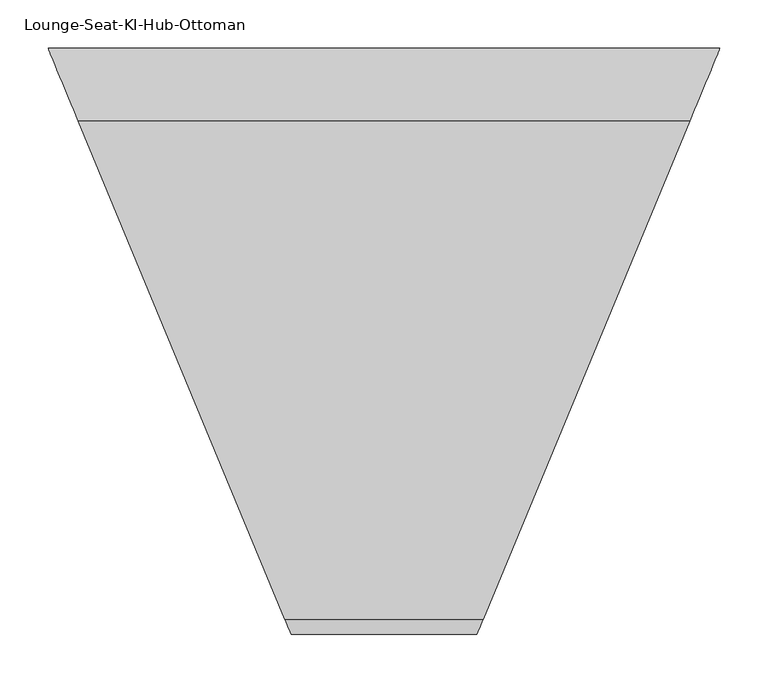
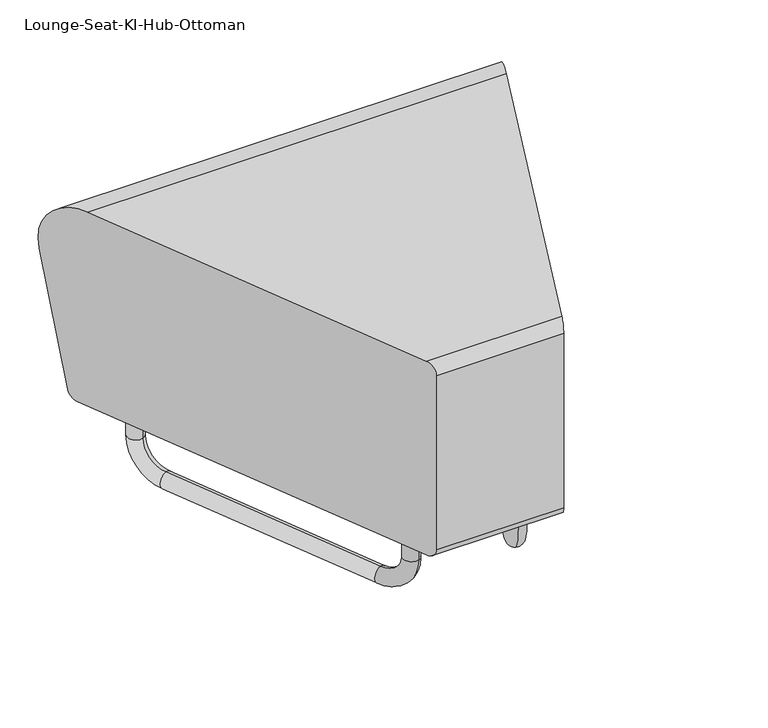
"""IFC4 building model written with IfcOpenShell, lengths in millimetres: furniture geometry."""

from ifc_helpers import new_model, si_unit, point, frame, origin, place, context, project, spatial, circle_curve, ellipse_curve, trimmed, source, transform, mapped, element, save
from ifc_brep_helpers import plane_surface, cylinder_surface, revolved_surface, advanced_brep


def lounge_seat_ki_hub_ottoman_19a636cd(model_context):
    return source(origin(), model_context, "Body", "AdvancedBrep", [
        advanced_brep(
        [(75.5608946, -222.9321312, 120.65), (85.2810538, -199.4655911, 120.65), (75.5608946, -222.9321312, 63.5), (85.2810538, -199.4655911, 63.5), (99.8612926, -164.2657809, 25.4), (99.8612926, -164.2657809, 0.0), (235.9435211, 164.2657809, 0.0), (235.9435211, 164.2657809, 25.4), (250.5237599, 199.4655911, 63.5), (260.2439191, 222.9321312, 63.5), (260.2439191, 222.9321312, 120.65), (250.5237599, 199.4655911, 120.65)],
        [
            (0, 1, circle_curve(frame((80.4209742, -211.1988611, 120.65), z_axis=(0.0, 0.0, 1.0), x_axis=(0.3826834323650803, 0.9238795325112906, 0.0)), 12.7)),
            (1, 0, circle_curve(frame((80.4209742, -211.1988611, 120.65), z_axis=(0.0, 0.0, 1.0), x_axis=(0.3826834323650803, 0.9238795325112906, 0.0)), 12.7)),
            (0, 2),
            (2, 3, circle_curve(frame((80.4209742, -211.1988611, 63.5), z_axis=(0.0, 0.0, 1.0), x_axis=(0.3826834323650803, 0.9238795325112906, 0.0)), 12.7)),
            (3, 1),
            (3, 2, circle_curve(frame((80.4209742, -211.1988611, 63.5), z_axis=(0.0, 0.0, 1.0), x_axis=(0.3826834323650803, 0.9238795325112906, 0.0)), 12.7)),
            (4, 3, circle_curve(frame((99.8612926, -164.2657809, 63.5), z_axis=(-0.9238795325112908, 0.3826834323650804, 0.0), x_axis=(-0.3826834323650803, -0.9238795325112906, 0.0)), 38.1)),
            (2, 5, circle_curve(frame((99.8612926, -164.2657809, 63.5), z_axis=(0.9238795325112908, -0.3826834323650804, 0.0), x_axis=(-0.3826834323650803, -0.9238795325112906, 0.0)), 63.5)),
            (5, 4, circle_curve(frame((99.8612926, -164.2657809, 12.7), z_axis=(-0.3826834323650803, -0.9238795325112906, 0.0), x_axis=(0.0, 0.0, 1.0)), 12.7)),
            (4, 5, circle_curve(frame((99.8612926, -164.2657809, 12.7), z_axis=(-0.3826834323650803, -0.9238795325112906, 0.0), x_axis=(0.0, 0.0, 1.0)), 12.7)),
            (5, 6),
            (6, 7, circle_curve(frame((235.9435211, 164.2657809, 12.7), z_axis=(-0.3826834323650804, -0.9238795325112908, 0.0), x_axis=(0.0, 0.0, 1.0)), 12.7)),
            (7, 4),
            (7, 6, circle_curve(frame((235.9435211, 164.2657809, 12.7), z_axis=(-0.3826834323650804, -0.9238795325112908, 0.0), x_axis=(0.0, 0.0, 1.0)), 12.7)),
            (8, 7, circle_curve(frame((235.9435211, 164.2657809, 63.5), z_axis=(-0.9238795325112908, 0.3826834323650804, 0.0), x_axis=(0.0, 0.0, -1.0)), 38.1)),
            (6, 9, circle_curve(frame((235.9435211, 164.2657809, 63.5), z_axis=(0.9238795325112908, -0.3826834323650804, 0.0), x_axis=(0.0, 0.0, -1.0)), 63.5)),
            (9, 8, circle_curve(frame((255.3838395, 211.1988611, 63.5), z_axis=(0.0, 0.0, -1.0), x_axis=(-0.3826834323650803, -0.9238795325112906, 0.0)), 12.7)),
            (8, 9, circle_curve(frame((255.3838395, 211.1988611, 63.5), z_axis=(0.0, 0.0, -1.0), x_axis=(-0.3826834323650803, -0.9238795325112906, 0.0)), 12.7)),
            (10, 11, circle_curve(frame((255.3838395, 211.1988611, 120.65), z_axis=(0.0, 0.0, 1.0), x_axis=(-0.3826834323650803, -0.9238795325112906, 0.0)), 12.7)),
            (11, 10, circle_curve(frame((255.3838395, 211.1988611, 120.65), z_axis=(0.0, 0.0, 1.0), x_axis=(-0.3826834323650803, -0.9238795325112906, 0.0)), 12.7)),
            (9, 10),
            (11, 8),
        ],
        [
            plane_surface(frame((80.4209742, -211.1988611, 120.65), z_axis=(0.0, 0.0, 1.0000000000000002), x_axis=(0.9238795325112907, -0.38268343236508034, 0.0))),
            cylinder_surface(frame((80.4209742, -211.1988611, 120.65), z_axis=(0.0, 0.0, 1.0), x_axis=(0.3826834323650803, 0.9238795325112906, 0.0)), 12.7),
            revolved_surface(trimmed(ellipse_curve(frame((80.4209742, -211.1988611, 63.5), z_axis=(0.0, 0.0, 1.0), x_axis=(0.3826834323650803, 0.9238795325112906, 0.0)), 12.7, 12.7), [point((75.5608946, -222.9321312, 63.5))], [point((85.2810538, -199.4655911, 63.5))], True, "CARTESIAN"), (99.8612926, -164.2657809, 63.5), (0.9238795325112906, -0.3826834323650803, 0.0)),
            revolved_surface(trimmed(ellipse_curve(frame((80.4209742, -211.1988611, 63.5), z_axis=(0.0, 0.0, 1.0), x_axis=(0.3826834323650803, 0.9238795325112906, 0.0)), 12.7, 12.7), [point((85.2810538, -199.4655911, 63.5))], [point((75.5608946, -222.9321312, 63.5))], True, "CARTESIAN"), (99.8612926, -164.2657809, 63.5), (0.9238795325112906, -0.3826834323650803, 0.0)),
            cylinder_surface(frame((99.8612926, -164.2657809, 12.7), z_axis=(-0.3826834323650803, -0.9238795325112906, 0.0), x_axis=(0.0, 0.0, 1.0)), 12.7),
            revolved_surface(trimmed(ellipse_curve(frame((235.9435211, 164.2657809, 12.7), z_axis=(-0.3826834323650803, -0.9238795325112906, 0.0), x_axis=(0.0, 0.0, 1.0)), 12.7, 12.7), [point((235.9435211, 164.2657809, 0.0))], [point((235.9435211, 164.2657809, 25.4))], True, "CARTESIAN"), (235.9435211, 164.2657809, 63.5), (0.9238795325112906, -0.3826834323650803, 0.0)),
            revolved_surface(trimmed(ellipse_curve(frame((235.9435211, 164.2657809, 12.7), z_axis=(-0.3826834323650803, -0.9238795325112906, 0.0), x_axis=(0.0, 0.0, 1.0)), 12.7, 12.7), [point((235.9435211, 164.2657809, 25.4))], [point((235.9435211, 164.2657809, 0.0))], True, "CARTESIAN"), (235.9435211, 164.2657809, 63.5), (0.9238795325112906, -0.3826834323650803, 0.0)),
            plane_surface(frame((255.3838395, 211.1988611, 120.65), z_axis=(0.0, 0.0, 1.0000000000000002), x_axis=(0.9238795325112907, -0.38268343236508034, 0.0))),
            cylinder_surface(frame((255.3838395, 211.1988611, 63.5), z_axis=(0.0, 0.0, -1.0), x_axis=(-0.3826834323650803, -0.9238795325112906, 0.0)), 12.7),
        ],
        [
            (0, [[1, 2]]),
            (1, [[-1, 3, 4, 5]]),
            (1, [[-2, -5, 6, -3]]),
            (2, [[7, -4, 8, 9]]),
            (3, [[-8, -6, -7, 10]]),
            (4, [[-9, 11, 12, 13]]),
            (4, [[-10, -13, 14, -11]]),
            (5, [[15, -12, 16, 17]]),
            (6, [[-16, -14, -15, 18]]),
            (7, [[19, 20]]),
            (8, [[-17, 21, -20, 22]]),
            (8, [[-18, -22, -19, -21]]),
        ],
    ),
        advanced_brep(
        [(-75.5608946, -222.9321312, 120.65), (-85.2810538, -199.4655911, 120.65), (-75.5608946, -222.9321312, 63.5), (-85.2810538, -199.4655911, 63.5), (-99.8612926, -164.2657809, 25.4), (-99.8612926, -164.2657809, 0.0), (-235.9435211, 164.2657809, 0.0), (-235.9435211, 164.2657809, 25.4), (-250.5237599, 199.4655911, 63.5), (-260.2439191, 222.9321312, 63.5), (-260.2439191, 222.9321312, 120.65), (-250.5237599, 199.4655911, 120.65)],
        [
            (0, 1, circle_curve(frame((-80.4209742, -211.1988611, 120.65), z_axis=(0.0, 0.0, 1.0), x_axis=(-0.38268343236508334, 0.9238795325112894, 0.0)), 12.7)),
            (1, 0, circle_curve(frame((-80.4209742, -211.1988611, 120.65), z_axis=(0.0, 0.0, 1.0), x_axis=(-0.38268343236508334, 0.9238795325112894, 0.0)), 12.7)),
            (0, 2),
            (2, 3, circle_curve(frame((-80.4209742, -211.1988611, 63.5), z_axis=(0.0, 0.0, 1.0), x_axis=(-0.38268343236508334, 0.9238795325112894, 0.0)), 12.7)),
            (3, 1),
            (3, 2, circle_curve(frame((-80.4209742, -211.1988611, 63.5), z_axis=(0.0, 0.0, 1.0), x_axis=(-0.38268343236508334, 0.9238795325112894, 0.0)), 12.7)),
            (4, 3, circle_curve(frame((-99.8612926, -164.2657809, 63.5), z_axis=(-0.9238795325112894, -0.38268343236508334, 0.0), x_axis=(0.38268343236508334, -0.9238795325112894, 0.0)), 38.1)),
            (2, 5, circle_curve(frame((-99.8612926, -164.2657809, 63.5), z_axis=(0.9238795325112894, 0.38268343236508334, 0.0), x_axis=(0.38268343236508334, -0.9238795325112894, 0.0)), 63.5)),
            (5, 4, circle_curve(frame((-99.8612926, -164.2657809, 12.7), z_axis=(0.38268343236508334, -0.9238795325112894, 0.0), x_axis=(0.0, 0.0, 1.0)), 12.7)),
            (4, 5, circle_curve(frame((-99.8612926, -164.2657809, 12.7), z_axis=(0.38268343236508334, -0.9238795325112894, 0.0), x_axis=(0.0, 0.0, 1.0)), 12.7)),
            (5, 6),
            (6, 7, circle_curve(frame((-235.9435211, 164.2657809, 12.7), z_axis=(0.38268343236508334, -0.9238795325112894, 0.0), x_axis=(0.0, 0.0, 1.0)), 12.7)),
            (7, 4),
            (7, 6, circle_curve(frame((-235.9435211, 164.2657809, 12.7), z_axis=(0.38268343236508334, -0.9238795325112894, 0.0), x_axis=(0.0, 0.0, 1.0)), 12.7)),
            (8, 7, circle_curve(frame((-235.9435211, 164.2657809, 63.5), z_axis=(-0.9238795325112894, -0.38268343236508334, 0.0), x_axis=(0.0, 0.0, -1.0)), 38.1)),
            (6, 9, circle_curve(frame((-235.9435211, 164.2657809, 63.5), z_axis=(0.9238795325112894, 0.38268343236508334, 0.0), x_axis=(0.0, 0.0, -1.0)), 63.5)),
            (9, 8, circle_curve(frame((-255.3838395, 211.1988611, 63.5), z_axis=(0.0, 0.0, -1.0), x_axis=(0.38268343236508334, -0.9238795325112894, 0.0)), 12.7)),
            (8, 9, circle_curve(frame((-255.3838395, 211.1988611, 63.5), z_axis=(0.0, 0.0, -1.0), x_axis=(0.38268343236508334, -0.9238795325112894, 0.0)), 12.7)),
            (10, 11, circle_curve(frame((-255.3838395, 211.1988611, 120.65), z_axis=(0.0, 0.0, 1.0), x_axis=(0.38268343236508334, -0.9238795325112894, 0.0)), 12.7)),
            (11, 10, circle_curve(frame((-255.3838395, 211.1988611, 120.65), z_axis=(0.0, 0.0, 1.0), x_axis=(0.38268343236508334, -0.9238795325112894, 0.0)), 12.7)),
            (9, 10),
            (11, 8),
        ],
        [
            plane_surface(frame((-80.4209742, -211.1988611, 120.65), z_axis=(0.0, 0.0, 1.0), x_axis=(0.9238795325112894, 0.38268343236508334, 0.0))),
            cylinder_surface(frame((-80.4209742, -211.1988611, 120.65), z_axis=(0.0, 0.0, 1.0), x_axis=(-0.38268343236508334, 0.9238795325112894, 0.0)), 12.7),
            revolved_surface(trimmed(ellipse_curve(frame((-80.4209742, -211.1988611, 63.5), z_axis=(0.0, 0.0, 1.0), x_axis=(-0.38268343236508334, 0.9238795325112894, 0.0)), 12.7, 12.7), [point((-75.5608946, -222.9321312, 63.5))], [point((-85.2810538, -199.4655911, 63.5))], True, "CARTESIAN"), (-99.8612926, -164.2657809, 63.5), (0.9238795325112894, 0.38268343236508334, 0.0)),
            revolved_surface(trimmed(ellipse_curve(frame((-80.4209742, -211.1988611, 63.5), z_axis=(0.0, 0.0, 1.0), x_axis=(-0.38268343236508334, 0.9238795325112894, 0.0)), 12.7, 12.7), [point((-85.2810538, -199.4655911, 63.5))], [point((-75.5608946, -222.9321312, 63.5))], True, "CARTESIAN"), (-99.8612926, -164.2657809, 63.5), (0.9238795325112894, 0.38268343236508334, 0.0)),
            cylinder_surface(frame((-99.8612926, -164.2657809, 12.7), z_axis=(0.38268343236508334, -0.9238795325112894, 0.0), x_axis=(0.0, 0.0, 1.0)), 12.7),
            revolved_surface(trimmed(ellipse_curve(frame((-235.9435211, 164.2657809, 12.7), z_axis=(0.38268343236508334, -0.9238795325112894, 0.0), x_axis=(0.0, 0.0, 1.0)), 12.7, 12.7), [point((-235.9435211, 164.2657809, 0.0))], [point((-235.9435211, 164.2657809, 25.4))], True, "CARTESIAN"), (-235.9435211, 164.2657809, 63.5), (0.9238795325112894, 0.38268343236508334, 0.0)),
            revolved_surface(trimmed(ellipse_curve(frame((-235.9435211, 164.2657809, 12.7), z_axis=(0.38268343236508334, -0.9238795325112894, 0.0), x_axis=(0.0, 0.0, 1.0)), 12.7, 12.7), [point((-235.9435211, 164.2657809, 25.4))], [point((-235.9435211, 164.2657809, 0.0))], True, "CARTESIAN"), (-235.9435211, 164.2657809, 63.5), (0.9238795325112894, 0.38268343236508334, 0.0)),
            plane_surface(frame((-255.3838395, 211.1988611, 120.65), z_axis=(0.0, 0.0, 1.0), x_axis=(0.9238795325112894, 0.38268343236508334, 0.0))),
            cylinder_surface(frame((-255.3838395, 211.1988611, 63.5), z_axis=(0.0, 0.0, -1.0), x_axis=(0.38268343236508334, -0.9238795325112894, 0.0)), 12.7),
        ],
        [
            (0, [[1, 2]]),
            (1, [[-1, 3, 4, 5]]),
            (1, [[-2, -5, 6, -3]]),
            (2, [[7, -4, 8, 9]]),
            (3, [[-8, -6, -7, 10]]),
            (4, [[-9, 11, 12, 13]]),
            (4, [[-10, -13, 14, -11]]),
            (5, [[15, -12, 16, 17]]),
            (6, [[-16, -14, -15, 18]]),
            (7, [[19, 20]]),
            (8, [[-17, 21, -20, 22]]),
            (8, [[-18, -22, -19, -21]]),
        ],
    ),
        advanced_brep(
        [(-103.1015016, -289.1900216, 431.8), (103.1015016, -289.1900216, 431.8), (317.6869265, 228.8650216, 431.8), (-317.6869265, 228.8650216, 431.8), (103.1015016, -289.1900216, 120.65), (-103.1015016, -289.1900216, 120.65), (-323.944396, 243.9718893, 120.65), (323.944396, 243.9718893, 120.65), (-96.5258613, -305.0650216, 415.925), (-349.25, 305.0650216, 355.6), (-348.5602711, 303.3998688, 339.7571292), (-330.3763428, 259.4999824, 133.2244019), (-96.5258613, -305.0650216, 136.525), (96.5258613, -305.0650216, 415.925), (96.5258613, -305.0650216, 136.525), (330.3763428, 259.4999824, 133.2244019), (348.5602711, 303.3998688, 339.7571292), (349.25, 305.0650216, 355.6)],
        [
            (0, 1),
            (1, 2),
            (2, 3),
            (3, 0),
            (4, 5),
            (5, 6),
            (6, 7),
            (7, 4),
            (8, 0, ellipse_curve(frame((-103.1015016, -289.1900216, 415.925), z_axis=(-0.9238795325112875, -0.382683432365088, 0.0), x_axis=(0.38268343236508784, -0.9238795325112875, 0.0)), 17.1829762, 15.875)),
            (3, 9, ellipse_curve(frame((-317.6869265, 228.8650216, 355.6), z_axis=(-0.9238795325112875, -0.382683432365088, 0.0), x_axis=(-0.38268343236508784, 0.9238795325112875, 0.0)), 82.4782857, 76.2)),
            (9, 10, ellipse_curve(frame((-317.6869265, 228.8650216, 355.6), z_axis=(-0.9238795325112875, -0.382683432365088, 0.0), x_axis=(-0.38268343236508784, 0.9238795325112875, 0.0)), 82.4782857, 76.2)),
            (10, 11),
            (11, 6, ellipse_curve(frame((-323.944396, 243.9718893, 136.525), z_axis=(-0.9238795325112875, -0.382683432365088, 0.0), x_axis=(-0.38268343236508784, 0.9238795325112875, 0.0)), 17.1829762, 15.875)),
            (5, 12, ellipse_curve(frame((-103.1015016, -289.1900216, 136.525), z_axis=(-0.9238795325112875, -0.382683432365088, 0.0), x_axis=(0.38268343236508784, -0.9238795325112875, 0.0)), 17.1829762, 15.875)),
            (12, 8),
            (1, 13, ellipse_curve(frame((103.1015016, -289.1900216, 415.925), z_axis=(0.9238795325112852, -0.38268343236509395, 0.0), x_axis=(0.3826834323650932, 0.9238795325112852, 0.0)), 17.1829762, 15.875)),
            (13, 14),
            (14, 4, ellipse_curve(frame((103.1015016, -289.1900216, 136.525), z_axis=(0.9238795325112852, -0.38268343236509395, 0.0), x_axis=(0.3826834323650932, 0.9238795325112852, 0.0)), 17.1829762, 15.875)),
            (7, 15, ellipse_curve(frame((323.944396, 243.9718893, 136.525), z_axis=(0.9238795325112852, -0.38268343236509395, 0.0), x_axis=(-0.3826834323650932, -0.9238795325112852, 0.0)), 17.1829762, 15.875)),
            (15, 16),
            (16, 17, ellipse_curve(frame((317.6869265, 228.8650216, 355.6), z_axis=(0.9238795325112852, -0.38268343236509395, 0.0), x_axis=(-0.3826834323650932, -0.9238795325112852, 0.0)), 82.4782857, 76.2)),
            (17, 2, ellipse_curve(frame((317.6869265, 228.8650216, 355.6), z_axis=(0.9238795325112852, -0.38268343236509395, 0.0), x_axis=(-0.3826834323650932, -0.9238795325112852, 0.0)), 82.4782857, 76.2)),
            (8, 13),
            (12, 14),
            (10, 16),
            (15, 11),
        ],
        [
            plane_surface(frame((349.25, 289.1900216, 431.8), z_axis=(0.0, 0.0, 1.0), x_axis=(-1.0, 0.0, 0.0))),
            plane_surface(frame((349.25, -289.1900216, 120.65), z_axis=(0.0, 0.0, -1.0), x_axis=(-1.0, 0.0, 0.0))),
            plane_surface(frame((-96.5258613, -305.0650216, 457.2), z_axis=(-0.9238795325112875, -0.382683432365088, 0.0), x_axis=(0.0, 0.0, -1.0))),
            plane_surface(frame((349.25, 305.0650216, 457.2), z_axis=(0.9238795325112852, -0.38268343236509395, 0.0), x_axis=(0.0, 0.0, -1.0))),
            cylinder_surface(frame((-349.25, -289.1900216, 415.925), z_axis=(1.0, 0.0, 0.0), x_axis=(0.0, 1.0, 0.0)), 15.875),
            plane_surface(frame((349.25, -305.0650216, 415.925), z_axis=(0.0, -1.0, 0.0), x_axis=(-1.0, 0.0, 0.0))),
            cylinder_surface(frame((-349.25, -289.1900216, 136.525), z_axis=(1.0, 0.0, 0.0), x_axis=(0.0, 1.0, 0.0)), 15.875),
            plane_surface(frame((374.65, 303.3998688, 339.7571292), z_axis=(0.0, 0.9781476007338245, -0.20791169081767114), x_axis=(-1.0, 0.0, 0.0))),
            cylinder_surface(frame((-374.65, 243.9718893, 136.525), z_axis=(-1.0, 0.0, 0.0), x_axis=(0.0, 1.0, 0.0)), 15.875),
            cylinder_surface(frame((-374.65, 228.8650216, 355.6), z_axis=(-1.0, 0.0, 0.0), x_axis=(0.0, 1.0, 0.0)), 76.2),
        ],
        [
            (0, [[1, 2, 3, 4]]),
            (1, [[5, 6, 7, 8]]),
            (2, [[9, -4, 10, 11, 12, 13, -6, 14, 15]]),
            (3, [[16, 17, 18, -8, 19, 20, 21, 22, -2]]),
            (4, [[-1, -9, 23, -16]]),
            (5, [[-23, -15, 24, -17]]),
            (6, [[-24, -14, -5, -18]]),
            (7, [[25, -20, 26, -12]]),
            (8, [[-26, -19, -7, -13]]),
            (9, [[-25, -11, -10, -3, -22, -21]]),
        ],
    ),
    ])


if __name__ == "__main__":
    model = new_model("IFC4")
    model_context = context("Model", 3, world=origin())
    ifc_project = project(units=[si_unit("LENGTHUNIT", "METRE", prefix="MILLI")], contexts=[model_context])
    site = spatial("IfcSite", under=ifc_project)
    building = spatial("IfcBuilding", under=site)
    placement = place(None, origin())
    lounge_seat_ki_hub_ottoman_shape = lounge_seat_ki_hub_ottoman_19a636cd(model_context)
    element("IfcFurniture", 1, ObjectType="Lounge-Seat-KI-Hub-Ottoman : 45\x9d\x9d° Wedge - Outside", at=placement, inside=building, context=model_context, shape_type="MappedRepresentation", body=[
        mapped(lounge_seat_ki_hub_ottoman_shape, transform((0.0, 0.0, 0.0), x_axis=(1.0, 0.0, 0.0), y_axis=(0.0, 1.0, 0.0), z_axis=(0.0, 0.0, 1.0))),
    ])
    save(model, "model.ifc")
